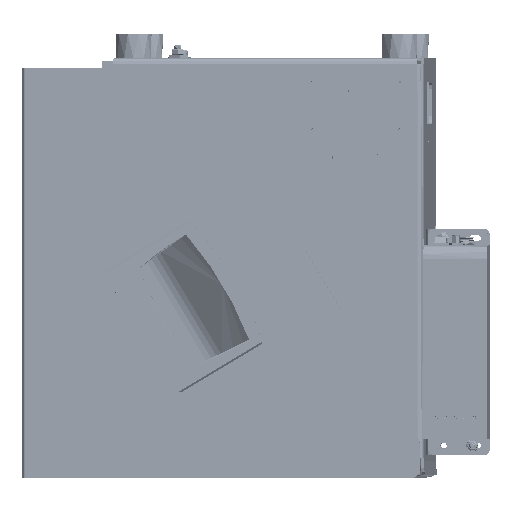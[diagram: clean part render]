
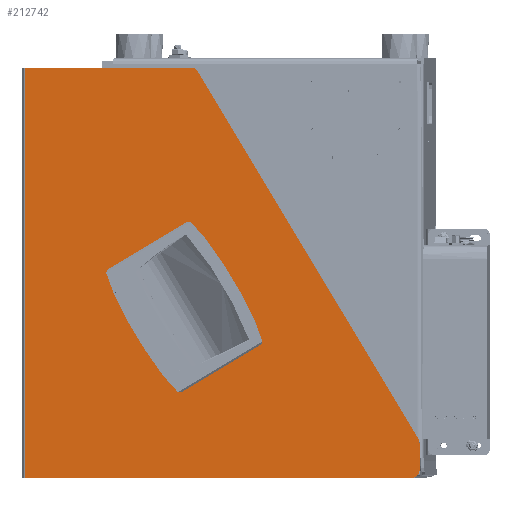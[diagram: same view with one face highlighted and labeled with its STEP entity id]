
A CAD part, front view. The second image highlights one B-rep face of the part: STEP entity #212742.
In plain terms, the highlighted planar face has unit normal (-0.023, -1, 0).
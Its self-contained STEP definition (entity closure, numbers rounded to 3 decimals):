
#13599=CIRCLE('',#228295,6.);
#13601=CIRCLE('',#228298,6.);
#13603=CIRCLE('',#228302,6.);
#13921=CIRCLE('',#229040,3.);
#13922=CIRCLE('',#229041,3.);
#13923=CIRCLE('',#229042,367.464);
#13924=CIRCLE('',#229043,3.);
#13925=CIRCLE('',#229044,3.);
#13926=CIRCLE('',#229045,367.464);
#20287=FACE_BOUND('',#41571,.T.);
#29274=FACE_OUTER_BOUND('',#41570,.T.);
#41570=EDGE_LOOP('',(#173926,#173927,#173928,#173929,#173930,#173931,#173932,
#173933));
#41571=EDGE_LOOP('',(#173934,#173935,#173936,#173937,#173938,#173939,#173940,
#173941,#173942,#173943,#173944,#173945));
#57746=LINE('',#379216,#74133);
#57749=LINE('',#379223,#74136);
#57755=LINE('',#379243,#74142);
#57761=LINE('',#379258,#74148);
#57820=LINE('',#379432,#74207);
#58561=LINE('',#382272,#74948);
#58562=LINE('',#382276,#74949);
#58563=LINE('',#382280,#74950);
#58564=LINE('',#382284,#74951);
#58565=LINE('',#382288,#74952);
#58566=LINE('',#382291,#74953);
#74133=VECTOR('',#272998,1000.);
#74136=VECTOR('',#273003,1000.);
#74142=VECTOR('',#273023,1000.);
#74148=VECTOR('',#273037,1000.);
#74207=VECTOR('',#273170,10.);
#74948=VECTOR('',#275309,10.);
#74949=VECTOR('',#275312,10.);
#74950=VECTOR('',#275315,10.);
#74951=VECTOR('',#275318,10.);
#74952=VECTOR('',#275321,10.);
#74953=VECTOR('',#275324,10.);
#92324=VERTEX_POINT('',#379213);
#92325=VERTEX_POINT('',#379215);
#92327=VERTEX_POINT('',#379221);
#92328=VERTEX_POINT('',#379222);
#92331=VERTEX_POINT('',#379230);
#92333=VERTEX_POINT('',#379236);
#92335=VERTEX_POINT('',#379242);
#92339=VERTEX_POINT('',#379252);
#93100=VERTEX_POINT('',#382268);
#93101=VERTEX_POINT('',#382269);
#93102=VERTEX_POINT('',#382271);
#93103=VERTEX_POINT('',#382273);
#93104=VERTEX_POINT('',#382275);
#93105=VERTEX_POINT('',#382277);
#93106=VERTEX_POINT('',#382279);
#93107=VERTEX_POINT('',#382281);
#93108=VERTEX_POINT('',#382283);
#93109=VERTEX_POINT('',#382285);
#93110=VERTEX_POINT('',#382287);
#93111=VERTEX_POINT('',#382289);
#119714=EDGE_CURVE('',#92324,#92325,#57746,.T.);
#119717=EDGE_CURVE('',#92327,#92328,#57749,.T.);
#119721=EDGE_CURVE('',#92331,#92327,#13599,.T.);
#119724=EDGE_CURVE('',#92324,#92333,#13601,.T.);
#119727=EDGE_CURVE('',#92333,#92335,#57755,.T.);
#119732=EDGE_CURVE('',#92335,#92339,#13603,.T.);
#119735=EDGE_CURVE('',#92339,#92331,#57761,.T.);
#119812=EDGE_CURVE('',#92325,#92328,#57820,.T.);
#120911=EDGE_CURVE('',#93100,#93101,#13921,.T.);
#120912=EDGE_CURVE('',#93101,#93102,#58561,.T.);
#120913=EDGE_CURVE('',#93102,#93103,#13922,.T.);
#120914=EDGE_CURVE('',#93103,#93104,#58562,.T.);
#120915=EDGE_CURVE('',#93104,#93105,#13923,.T.);
#120916=EDGE_CURVE('',#93105,#93106,#58563,.T.);
#120917=EDGE_CURVE('',#93106,#93107,#13924,.T.);
#120918=EDGE_CURVE('',#93107,#93108,#58564,.T.);
#120919=EDGE_CURVE('',#93108,#93109,#13925,.T.);
#120920=EDGE_CURVE('',#93109,#93110,#58565,.T.);
#120921=EDGE_CURVE('',#93110,#93111,#13926,.T.);
#120922=EDGE_CURVE('',#93111,#93100,#58566,.T.);
#173926=ORIENTED_EDGE('',*,*,#119812,.F.);
#173927=ORIENTED_EDGE('',*,*,#119714,.F.);
#173928=ORIENTED_EDGE('',*,*,#119724,.T.);
#173929=ORIENTED_EDGE('',*,*,#119727,.T.);
#173930=ORIENTED_EDGE('',*,*,#119732,.T.);
#173931=ORIENTED_EDGE('',*,*,#119735,.T.);
#173932=ORIENTED_EDGE('',*,*,#119721,.T.);
#173933=ORIENTED_EDGE('',*,*,#119717,.T.);
#173934=ORIENTED_EDGE('',*,*,#120911,.T.);
#173935=ORIENTED_EDGE('',*,*,#120912,.T.);
#173936=ORIENTED_EDGE('',*,*,#120913,.T.);
#173937=ORIENTED_EDGE('',*,*,#120914,.T.);
#173938=ORIENTED_EDGE('',*,*,#120915,.T.);
#173939=ORIENTED_EDGE('',*,*,#120916,.T.);
#173940=ORIENTED_EDGE('',*,*,#120917,.T.);
#173941=ORIENTED_EDGE('',*,*,#120918,.T.);
#173942=ORIENTED_EDGE('',*,*,#120919,.T.);
#173943=ORIENTED_EDGE('',*,*,#120920,.T.);
#173944=ORIENTED_EDGE('',*,*,#120921,.T.);
#173945=ORIENTED_EDGE('',*,*,#120922,.T.);
#191969=PLANE('',#229039);
#212742=ADVANCED_FACE('',(#29274,#20287),#191969,.T.);
#228295=AXIS2_PLACEMENT_3D('',#379231,#273009,#273010);
#228298=AXIS2_PLACEMENT_3D('',#379237,#273016,#273017);
#228302=AXIS2_PLACEMENT_3D('',#379253,#273030,#273031);
#229039=AXIS2_PLACEMENT_3D('',#382267,#275305,#275306);
#229040=AXIS2_PLACEMENT_3D('',#382270,#275307,#275308);
#229041=AXIS2_PLACEMENT_3D('',#382274,#275310,#275311);
#229042=AXIS2_PLACEMENT_3D('',#382278,#275313,#275314);
#229043=AXIS2_PLACEMENT_3D('',#382282,#275316,#275317);
#229044=AXIS2_PLACEMENT_3D('',#382286,#275319,#275320);
#229045=AXIS2_PLACEMENT_3D('',#382290,#275322,#275323);
#272998=DIRECTION('',(-1.,0.023,0.));
#273003=DIRECTION('',(-1.,0.023,0.));
#273009=DIRECTION('center_axis',(-0.023,-1.,
0.));
#273010=DIRECTION('ref_axis',(0.,0.,
-1.));
#273016=DIRECTION('center_axis',(-0.023,-1.,
0.));
#273017=DIRECTION('ref_axis',(0.,0.,
-1.));
#273023=DIRECTION('',(0.,0.,1.));
#273030=DIRECTION('center_axis',(-0.023,-1.,
0.));
#273031=DIRECTION('ref_axis',(0.,0.,
1.));
#273037=DIRECTION('',(-0.515,0.012,0.857));
#273170=DIRECTION('',(0.,0.,1.));
#275305=DIRECTION('center_axis',(-0.023,-1.,
0.));
#275306=DIRECTION('ref_axis',(0.,0.,
1.));
#275307=DIRECTION('center_axis',(0.023,1.,0.));
#275308=DIRECTION('ref_axis',(0.515,-0.012,-0.857));
#275309=DIRECTION('',(-0.857,0.02,-0.515));
#275310=DIRECTION('center_axis',(0.023,1.,0.));
#275311=DIRECTION('ref_axis',(0.515,-0.012,-0.857));
#275312=DIRECTION('',(-0.669,0.016,0.743));
#275313=DIRECTION('center_axis',(0.023,1.,0.));
#275314=DIRECTION('ref_axis',(0.515,-0.012,-0.857));
#275315=DIRECTION('',(-0.342,0.008,0.94));
#275316=DIRECTION('center_axis',(0.023,1.,0.));
#275317=DIRECTION('ref_axis',(0.515,-0.012,-0.857));
#275318=DIRECTION('',(0.857,-0.02,0.515));
#275319=DIRECTION('center_axis',(0.023,1.,0.));
#275320=DIRECTION('ref_axis',(0.515,-0.012,-0.857));
#275321=DIRECTION('',(0.669,-0.016,-0.743));
#275322=DIRECTION('center_axis',(0.023,1.,0.));
#275323=DIRECTION('ref_axis',(0.515,-0.012,-0.857));
#275324=DIRECTION('',(0.342,-0.008,-0.94));
#379213=CARTESIAN_POINT('',(78.075,-272.554,-349.5));
#379215=CARTESIAN_POINT('',(-246.336,-264.973,-349.5));
#379216=CARTESIAN_POINT('',(-149.269,-267.241,-349.5));
#379221=CARTESIAN_POINT('',(-107.269,-268.223,-5.5));
#379222=CARTESIAN_POINT('',(-246.336,-264.973,-5.5));
#379223=CARTESIAN_POINT('',(-149.269,-267.241,-5.5));
#379230=CARTESIAN_POINT('',(-102.127,-268.343,-8.41));
#379231=CARTESIAN_POINT('Origin',(-107.269,-268.223,-11.5));
#379236=CARTESIAN_POINT('',(84.074,-272.694,-343.5));
#379237=CARTESIAN_POINT('Origin',(78.075,-272.554,-343.5));
#379242=CARTESIAN_POINT('',(84.074,-272.694,-320.048));
#379243=CARTESIAN_POINT('',(84.074,-272.694,-5.5));
#379252=CARTESIAN_POINT('',(83.217,-272.674,-316.958));
#379253=CARTESIAN_POINT('Origin',(78.075,-272.554,-320.048));
#379258=CARTESIAN_POINT('',(83.217,-272.674,-316.958));
#379432=CARTESIAN_POINT('',(-246.336,-264.973,-5.5));
#382267=CARTESIAN_POINT('Origin',(-246.336,-264.973,-5.5));
#382268=CARTESIAN_POINT('',(-47.978,-269.608,-234.275));
#382269=CARTESIAN_POINT('',(-49.252,-269.579,-237.873));
#382270=CARTESIAN_POINT('Origin',(-50.796,-269.542,-235.301));
#382271=CARTESIAN_POINT('',(-115.252,-268.036,-277.54));
#382272=CARTESIAN_POINT('',(-103.375,-268.314,-270.402));
#382273=CARTESIAN_POINT('',(-119.025,-267.948,-276.976));
#382274=CARTESIAN_POINT('Origin',(-116.796,-268.,-274.969));
#382275=CARTESIAN_POINT('',(-130.565,-267.678,-264.156));
#382276=CARTESIAN_POINT('',(-220.775,-265.57,-163.941));
#382277=CARTESIAN_POINT('',(-172.414,-266.7,-194.489));
#382278=CARTESIAN_POINT('Origin',(161.471,-274.503,-41.225));
#382279=CARTESIAN_POINT('',(-178.313,-266.563,-178.278));
#382280=CARTESIAN_POINT('',(-210.049,-265.821,-91.06));
#382281=CARTESIAN_POINT('',(-177.039,-266.592,-174.68));
#382282=CARTESIAN_POINT('Origin',(-175.495,-266.628,-177.252));
#382283=CARTESIAN_POINT('',(-111.039,-268.135,-135.013));
#382284=CARTESIAN_POINT('',(-132.162,-267.641,-147.708));
#382285=CARTESIAN_POINT('',(-107.266,-268.223,-135.577));
#382286=CARTESIAN_POINT('Origin',(-109.495,-268.171,-137.584));
#382287=CARTESIAN_POINT('',(-95.725,-268.492,-148.397));
#382288=CARTESIAN_POINT('',(-164.961,-266.875,-71.482));
#382289=CARTESIAN_POINT('',(-53.877,-269.47,-218.064));
#382290=CARTESIAN_POINT('Origin',(-387.762,-261.668,-371.328));
#382291=CARTESIAN_POINT('',(-96.333,-268.478,-101.384));
